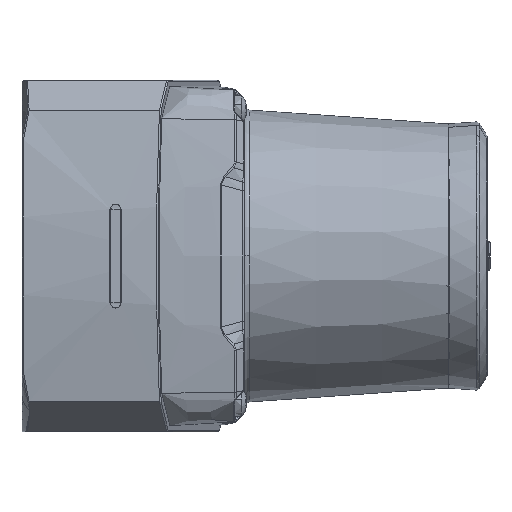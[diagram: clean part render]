
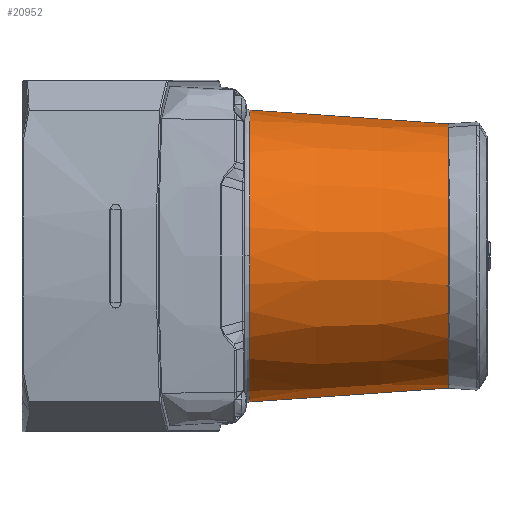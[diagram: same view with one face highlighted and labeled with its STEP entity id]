
A CAD part, front view. The second image highlights one B-rep face of the part: STEP entity #20952.
In plain terms, the highlighted conical face has half-angle 4 degrees and reference radius 23.75 mm.
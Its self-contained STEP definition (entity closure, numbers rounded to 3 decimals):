
#209 = CARTESIAN_POINT ( 'NONE',  ( 0., 41.814, 0. ) ) ;
#1118 = CARTESIAN_POINT ( 'NONE',  ( 0., 24.872, 0. ) ) ;
#1449 = AXIS2_PLACEMENT_3D ( 'NONE', #1118, #43507, #52242 ) ;
#1553 = VERTEX_POINT ( 'NONE', #44278 ) ;
#1864 = AXIS2_PLACEMENT_3D ( 'NONE', #209, #42960, #29738 ) ;
#3949 = DIRECTION ( 'NONE',  ( 0., -1., 0. ) ) ;
#4711 = DIRECTION ( 'NONE',  ( 0.211, 0., -0.977 ) ) ;
#6370 = CIRCLE ( 'NONE', #1864, 22.566 ) ;
#9263 = DIRECTION ( 'NONE',  ( -0.07, -0.998, 0. ) ) ;
#10156 = VERTEX_POINT ( 'NONE', #50765 ) ;
#10853 = VERTEX_POINT ( 'NONE', #47999 ) ;
#12859 = CARTESIAN_POINT ( 'NONE',  ( 0., 7.93, 0. ) ) ;
#13350 = ORIENTED_EDGE ( 'NONE', *, *, #30654, .T. ) ;
#13934 = ORIENTED_EDGE ( 'NONE', *, *, #31880, .F. ) ;
#15730 = EDGE_CURVE ( 'NONE', #52388, #1553, #6370, .T. ) ;
#18913 = DIRECTION ( 'NONE',  ( 0.07, -0.998, 0. ) ) ;
#19691 = DIRECTION ( 'NONE',  ( 0.191, 0., -0.982 ) ) ;
#20023 = AXIS2_PLACEMENT_3D ( 'NONE', #46485, #3949, #4711 ) ;
#20952 = ADVANCED_FACE ( 'NONE', ( #21267 ), #35181, .T. ) ;
#21267 = FACE_OUTER_BOUND ( 'NONE', #55019, .T. ) ;
#22863 = CARTESIAN_POINT ( 'NONE',  ( -0.027, 7.93, 24.935 ) ) ;
#23699 = EDGE_CURVE ( 'NONE', #10156, #52388, #25095, .T. ) ;
#25095 = CIRCLE ( 'NONE', #20023, 22.566 ) ;
#27004 = AXIS2_PLACEMENT_3D ( 'NONE', #36536, #45100, #19691 ) ;
#27225 = ORIENTED_EDGE ( 'NONE', *, *, #15730, .T. ) ;
#27442 = CIRCLE ( 'NONE', #39248, 24.935 ) ;
#29329 = LINE ( 'NONE', #30772, #34686 ) ;
#29568 = ORIENTED_EDGE ( 'NONE', *, *, #29926, .F. ) ;
#29738 = DIRECTION ( 'NONE',  ( 0.211, 0., -0.977 ) ) ;
#29774 = ORIENTED_EDGE ( 'NONE', *, *, #39101, .F. ) ;
#29926 = EDGE_CURVE ( 'NONE', #10156, #47236, #46739, .T. ) ;
#30654 = EDGE_CURVE ( 'NONE', #1553, #10853, #29329, .T. ) ;
#30772 = CARTESIAN_POINT ( 'NONE',  ( -23.75, 24.872, 0. ) ) ;
#30812 = ORIENTED_EDGE ( 'NONE', *, *, #23699, .T. ) ;
#31880 = EDGE_CURVE ( 'NONE', #48215, #10853, #42095, .T. ) ;
#32111 = CARTESIAN_POINT ( 'NONE',  ( -0.025, 41.814, 22.566 ) ) ;
#34149 = CARTESIAN_POINT ( 'NONE',  ( 24.935, 7.93, 0. ) ) ;
#34686 = VECTOR ( 'NONE', #9263, 1000. ) ;
#35181 = CONICAL_SURFACE ( 'NONE', #1449, 23.75, 0.07 ) ;
#35418 = VECTOR ( 'NONE', #18913, 1000. ) ;
#36536 = CARTESIAN_POINT ( 'NONE',  ( 0., 7.93, 0. ) ) ;
#39101 = EDGE_CURVE ( 'NONE', #47236, #48215, #27442, .T. ) ;
#39220 = DIRECTION ( 'NONE',  ( 0.191, 0., -0.982 ) ) ;
#39248 = AXIS2_PLACEMENT_3D ( 'NONE', #12859, #52638, #39220 ) ;
#42095 = CIRCLE ( 'NONE', #27004, 24.935 ) ;
#42960 = DIRECTION ( 'NONE',  ( 0., -1., 0. ) ) ;
#43507 = DIRECTION ( 'NONE',  ( 0., -1., 0. ) ) ;
#44170 = CARTESIAN_POINT ( 'NONE',  ( 23.75, 24.872, 0. ) ) ;
#44278 = CARTESIAN_POINT ( 'NONE',  ( -22.566, 41.814, 0. ) ) ;
#45100 = DIRECTION ( 'NONE',  ( 0., -1., 0. ) ) ;
#46485 = CARTESIAN_POINT ( 'NONE',  ( 0., 41.814, 0. ) ) ;
#46739 = LINE ( 'NONE', #44170, #35418 ) ;
#47236 = VERTEX_POINT ( 'NONE', #34149 ) ;
#47999 = CARTESIAN_POINT ( 'NONE',  ( -24.935, 7.93, 0. ) ) ;
#48215 = VERTEX_POINT ( 'NONE', #22863 ) ;
#50765 = CARTESIAN_POINT ( 'NONE',  ( 22.566, 41.814, 0. ) ) ;
#52242 = DIRECTION ( 'NONE',  ( -1., 0., 0. ) ) ;
#52388 = VERTEX_POINT ( 'NONE', #32111 ) ;
#52638 = DIRECTION ( 'NONE',  ( 0., -1., 0. ) ) ;
#55019 = EDGE_LOOP ( 'NONE', ( #29568, #30812, #27225, #13350, #13934, #29774 ) ) ;
